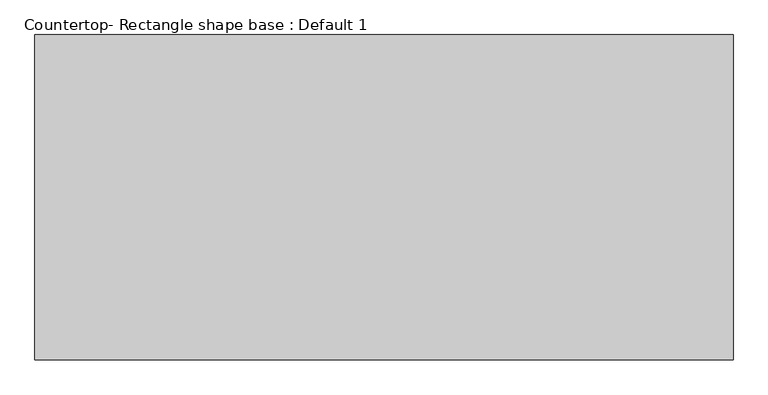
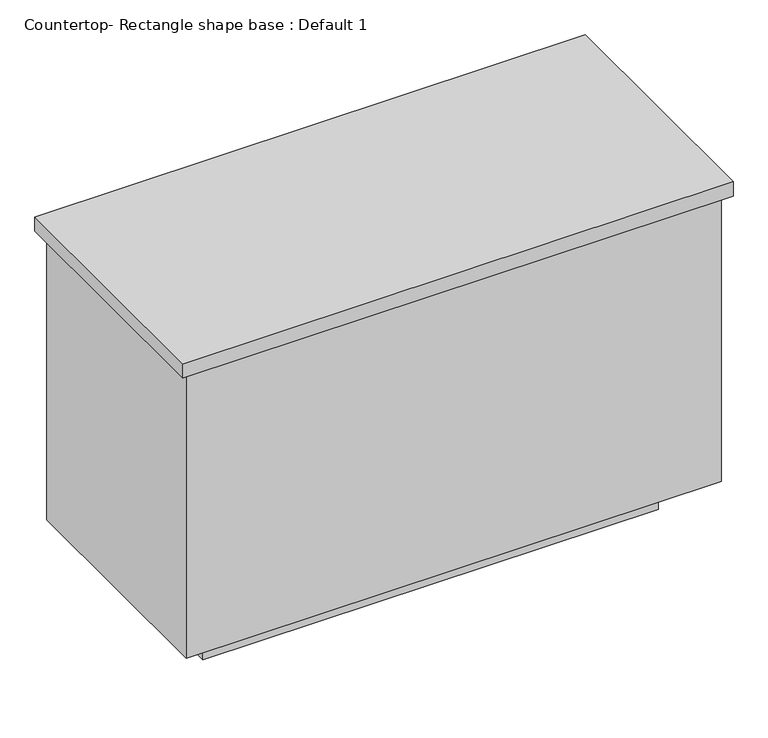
"""IFC4 building model written with IfcOpenShell, lengths in millimetres: proxy geometry, Countertop- Rectangle shape base : Default 1."""

import ifcopenshell
import ifcopenshell.guid

model = None  # the IFC model being written
_history = None  # IfcOwnerHistory: only IFC2X3 demands one
_inside = {}  # id of a spatial element -> (the spatial element, [elements in it])
_under = {}  # id of a project, library or spatial element -> (it, [spatial elements below it])
_declared = {}  # id of a project -> (the project, [libraries it declares])
_typed = {}  # id of a type object -> (the type object, [elements of that type])
_made_of = {}  # id of a material, layer set ... -> (it, [elements and type objects made of it])


def new_model(schema):
    """Start an empty IFC model of exactly this schema.

    Asked for "IFC4X3", IfcOpenShell would pick the latest addendum, in which some entities
    have other attributes; the version numbers below select the first issue.
    IFC2X3 requires an IfcOwnerHistory on every rooted entity: one is made here for all.
    """
    global model, _history
    if schema == "IFC4X3":
        model = ifcopenshell.file(schema_version=(4, 3, 0, 0))
    else:
        model = ifcopenshell.file(schema=schema)
    _inside.clear()
    _under.clear()
    _declared.clear()
    _typed.clear()
    _made_of.clear()
    _history = None
    if model.schema == "IFC2X3":
        org = make("IfcOrganization", Name="unknown")
        user = make(
            "IfcPersonAndOrganization",
            ThePerson=make("IfcPerson", FamilyName="unknown"),
            TheOrganization=org,
        )
        app = make(
            "IfcApplication",
            ApplicationDeveloper=org,
            Version="unknown",
            ApplicationFullName="unknown",
            ApplicationIdentifier="unknown",
        )
        _history = make(
            "IfcOwnerHistory",
            OwningUser=user,
            OwningApplication=app,
            ChangeAction="ADDED",
            CreationDate=0,
        )
    return model


def make(cls, **values):
    """One entity of the class cls with the attributes given. An attribute that is None is left unset."""
    return model.create_entity(
        cls, **{name: value for name, value in values.items() if value is not None}
    )


def rooted(cls, **values):
    """An entity with a GlobalId (a new one), such as an element, a storey or a relation."""
    return make(cls, GlobalId=ifcopenshell.guid.new(), OwnerHistory=_history, **values)


def si_unit(unit_type, name, prefix=None):
    """IfcSIUnit, for example si_unit("LENGTHUNIT", "METRE", prefix="MILLI")."""
    return make("IfcSIUnit", UnitType=unit_type, Prefix=prefix, Name=name)


def assignment(units):
    """IfcUnitAssignment: the units of a project."""
    return None if units is None else make("IfcUnitAssignment", Units=units)


def point(xyz):
    """IfcCartesianPoint."""
    return None if xyz is None else make("IfcCartesianPoint", Coordinates=xyz)


def direction(xyz):
    """IfcDirection."""
    return None if xyz is None else make("IfcDirection", DirectionRatios=xyz)


def frame(location, z_axis=None, x_axis=None):
    """IfcAxis2Placement3D, a coordinate frame: its origin and axes. An axis left out is left unset."""
    return make(
        "IfcAxis2Placement3D",
        Location=point(location),
        Axis=direction(z_axis),
        RefDirection=direction(x_axis),
    )


def origin():
    """The frame at (0, 0, 0) with its axes left unset."""
    return frame((0.0, 0.0, 0.0))


def origin_with_axes():
    """The frame at (0, 0, 0) with the z axis (0, 0, 1) and the x axis (1, 0, 0) written out."""
    return frame((0.0, 0.0, 0.0), z_axis=(0.0, 0.0, 1.0), x_axis=(1.0, 0.0, 0.0))


def place(relative_to, where):
    """IfcLocalPlacement: puts the frame where relative to a parent placement (None: the world)."""
    return make(
        "IfcLocalPlacement", PlacementRelTo=relative_to, RelativePlacement=where
    )


def context(
    kind, dimensions, precision=None, world=None, true_north=None, identifier=None
):
    """IfcGeometricRepresentationContext, for example the 3D "Model" context."""
    return make(
        "IfcGeometricRepresentationContext",
        ContextIdentifier=identifier,
        ContextType=kind,
        CoordinateSpaceDimension=dimensions,
        Precision=precision,
        WorldCoordinateSystem=world,
        TrueNorth=true_north,
    )


def project(units=None, contexts=None):
    """IfcProject with its units and contexts."""
    return rooted(
        "IfcProject",
        Name="project",
        RepresentationContexts=contexts,
        UnitsInContext=assignment(units),
    )


def spatial(cls, under=None, at=None, **own):
    """A site, building, storey or space (cls), placed at a placement, below another one or the project."""
    s = rooted(cls, ObjectPlacement=at, **own)
    if under is not None:
        _under.setdefault(under.id(), (under, []))[1].append(s)
    return s


def polyline(points):
    """IfcPolyline through the points."""
    return make("IfcPolyline", Points=[point(p) for p in points])


def outline(outer, holes=None, kind="AREA"):
    """IfcArbitraryClosedProfileDef: a profile drawn as a closed curve; with holes, ...WithVoids."""
    if holes is None:
        return make("IfcArbitraryClosedProfileDef", ProfileType=kind, OuterCurve=outer)
    return make(
        "IfcArbitraryProfileDefWithVoids",
        ProfileType=kind,
        OuterCurve=outer,
        InnerCurves=holes,
    )


def extrude(swept, where, along, depth):
    """IfcExtrudedAreaSolid: the profile swept, set in the frame where, extruded along a direction by depth."""
    return make(
        "IfcExtrudedAreaSolid",
        SweptArea=swept,
        Position=where,
        ExtrudedDirection=direction(along),
        Depth=depth,
    )


def shape(context_of_items, identifier, shape_type, items):
    """IfcShapeRepresentation: the items that make up one representation, for example the "Body"."""
    return make(
        "IfcShapeRepresentation",
        ContextOfItems=context_of_items,
        RepresentationIdentifier=identifier,
        RepresentationType=shape_type,
        Items=items,
    )


def source(mapping_origin, context_of_items, identifier, shape_type, items):
    """IfcRepresentationMap: a shape defined once, which mapped items show again and again."""
    return make(
        "IfcRepresentationMap",
        MappingOrigin=mapping_origin,
        MappedRepresentation=shape(context_of_items, identifier, shape_type, items),
    )


def transform(
    local_origin,
    x_axis=None,
    y_axis=None,
    z_axis=None,
    scale=None,
    scale2=None,
    scale3=None,
    uniform=True,
):
    """IfcCartesianTransformationOperator3D, or its non-uniform kind. x_axis, y_axis, z_axis: its Axis1, 2, 3."""
    if uniform:
        return make(
            "IfcCartesianTransformationOperator3D",
            Axis1=direction(x_axis),
            Axis2=direction(y_axis),
            LocalOrigin=point(local_origin),
            Scale=scale,
            Axis3=direction(z_axis),
        )
    return make(
        "IfcCartesianTransformationOperator3DnonUniform",
        Axis1=direction(x_axis),
        Axis2=direction(y_axis),
        LocalOrigin=point(local_origin),
        Scale=scale,
        Axis3=direction(z_axis),
        Scale2=scale2,
        Scale3=scale3,
    )


def mapped(mapping_source, mapping_target):
    """IfcMappedItem: shows the shape of a source again, moved by a transform."""
    return make(
        "IfcMappedItem", MappingSource=mapping_source, MappingTarget=mapping_target
    )


def made_of(thing, what):
    """Note that an element or type object is made of a material, layer set ...; save() writes the relation."""
    if what is not None:
        _made_of.setdefault(what.id(), (what, []))[1].append(thing)
    return thing


def element(
    cls,
    number,
    at=None,
    inside=None,
    cuts=None,
    type_object=None,
    material=None,
    context=None,
    identifier="Body",
    shape_type=None,
    held_by="IfcProductDefinitionShape",
    body=None,
    shapes=None,
    **own,
):
    """One element of the class cls, such as IfcWall. Its Tag is "e" and its number.

    at: its placement. inside: the storey or other place that contains it. cuts: it is an
    opening in that element (IfcRelVoidsElement). A single representation is given by context,
    identifier, shape_type and body (its items); several are given by shapes. held_by: the class
    of the entity that holds the representations. save() writes the other relations.
    """
    e = rooted(cls, Tag="e%d" % number, ObjectPlacement=at, **own)
    if body is not None:
        shapes = [shape(context, identifier, shape_type, body)]
    if shapes is not None:
        e.Representation = make(held_by, Representations=shapes)
    if inside is not None:
        _inside.setdefault(inside.id(), (inside, []))[1].append(e)
    if cuts is not None:
        rooted(
            "IfcRelVoidsElement", RelatingBuildingElement=cuts, RelatedOpeningElement=e
        )
    if type_object is not None:
        _typed.setdefault(type_object.id(), (type_object, []))[1].append(e)
    return made_of(e, material)


def aggregate(whole, parts):
    """IfcRelAggregates: a whole, such as a stair, and the parts it consists of."""
    return rooted("IfcRelAggregates", RelatingObject=whole, RelatedObjects=parts)


def save(model, path):
    """Write the relations noted so far, then the file.

    IfcRelAggregates (storeys below a building ...), IfcRelContainedInSpatialStructure (elements
    in a storey), IfcRelDefinesByType, IfcRelAssociatesMaterial and IfcRelDeclares: one each for
    every whole, place, type object, material and project.
    """
    for whole, parts in _under.values():
        aggregate(whole, parts)
    for where, things in _inside.values():
        rooted(
            "IfcRelContainedInSpatialStructure",
            RelatedElements=things,
            RelatingStructure=where,
        )
    for kind, things in _typed.values():
        rooted("IfcRelDefinesByType", RelatedObjects=things, RelatingType=kind)
    for what, things in _made_of.values():
        rooted("IfcRelAssociatesMaterial", RelatedObjects=things, RelatingMaterial=what)
    for by, libraries in _declared.values():
        rooted("IfcRelDeclares", RelatingContext=by, RelatedDefinitions=libraries)
    model.write(path)


def countertop_rectangle_shape_base_default_1_c7faa787(model_context):
    return source(origin(), model_context, "Body", "SweptSolid", [
        extrude(outline(polyline([(60.325, 53.975), (60.325, 708.025), (1463.675, 708.025), (1463.675, 53.975), (60.325, 53.975)])), frame((0.0, 0.0, 876.3), z_axis=(0.0, 0.0, 1.0), x_axis=(1.0, 0.0, 0.0)), (0.0, 0.0, 1.0), 38.1),
        extrude(outline(polyline([(1444.625, 688.975), (1444.625, 73.025), (79.375, 73.025), (79.375, 688.975), (1444.625, 688.975)])), frame((0.0, 0.0, 101.6), z_axis=(0.0, 0.0, 1.0), x_axis=(1.0, 0.0, 0.0)), (0.0, 0.0, 1.0), 774.7),
        extrude(outline(polyline([(1343.025, 587.375), (1343.025, 174.625), (180.975, 174.625), (180.975, 587.375), (1343.025, 587.375)])), origin_with_axes(), (0.0, 0.0, 1.0), 101.6),
    ])


if __name__ == "__main__":
    model = new_model("IFC4")
    model_context = context("Model", 3, world=origin())
    ifc_project = project(units=[si_unit("LENGTHUNIT", "METRE", prefix="MILLI")], contexts=[model_context])
    site = spatial("IfcSite", under=ifc_project)
    building = spatial("IfcBuilding", under=site)
    placement = place(None, origin())
    countertop_rectangle_shape_base_default_1_shape = countertop_rectangle_shape_base_default_1_c7faa787(model_context)
    element("IfcBuildingElementProxy", 1, Name="Countertop- Rectangle shape base : Default 1", ObjectType="Countertop- Rectangle shape base : Default 1", at=placement, inside=building, context=model_context, shape_type="MappedRepresentation", body=[
        mapped(countertop_rectangle_shape_base_default_1_shape, transform((0.0, 0.0, 0.0), x_axis=(1.0, 0.0, 0.0), y_axis=(0.0, 1.0, 0.0), z_axis=(0.0, 0.0, 1.0))),
    ])
    save(model, "model.ifc")
